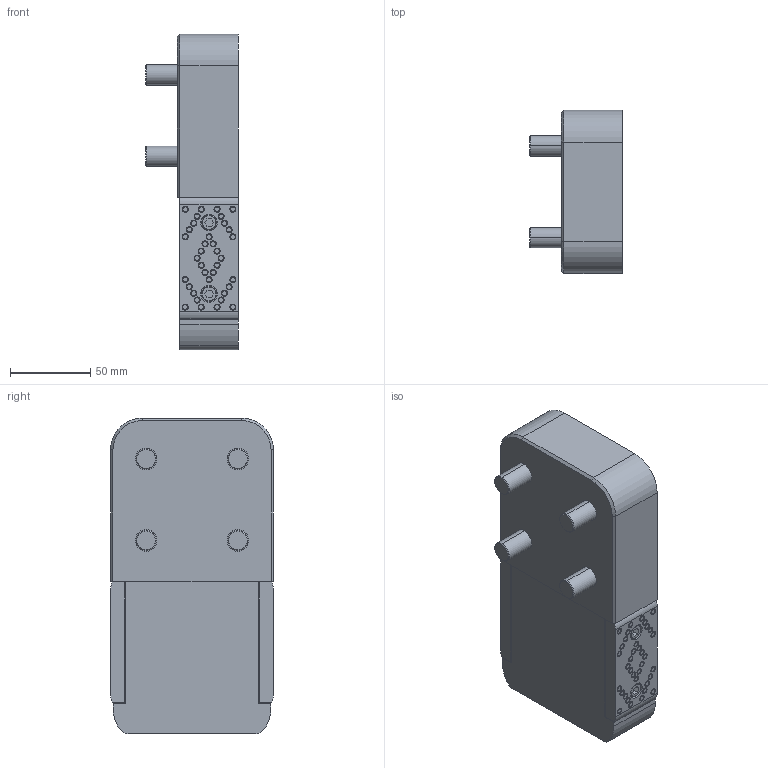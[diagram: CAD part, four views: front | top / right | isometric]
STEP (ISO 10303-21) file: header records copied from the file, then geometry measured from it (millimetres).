
FILE_DESCRIPTION (( 'STEP AP203' ), '1' );
FILE_NAME ('BLN150L8.step', '2017-02-07T15:56:49', ( '' ), ( '' ), 'SwSTEP 2.0', 'SolidWorks 2014', '' );
FILE_SCHEMA (( 'CONFIG_CONTROL_DESIGN' ));
Length unit declared in the file: inch
Products named in the file (5): 14-20x50 SHCS; 12-13x175 SHCS; BLB150L8; BLN150L8; BLS150L3
Assembly tree (11 placements, depth 2):
  BLN150L8
    BLB150L8
    BLS150L3  x2
    14-20x50 SHCS  x4
    12-13x175 SHCS  x4
Bounding box: 57.91 x 101.6 x 196.85 mm (x, y, z)
Volume: 734030.7 mm3; surface area: 99490.6 mm2
Topology: 11 solids, 11 shells, 703 faces, 1485 edges, 967 vertices
Faces by surface type: cylinder 390, plane 269, cone 36, torus 8
Entity records: 10410 total; most frequent: DIRECTION 1877, CARTESIAN_POINT 1639, ORIENTED_EDGE 1494, AXIS2_PLACEMENT_3D 777, EDGE_CURVE 747, VERTEX_POINT 491, EDGE_LOOP 450, CIRCLE 412
